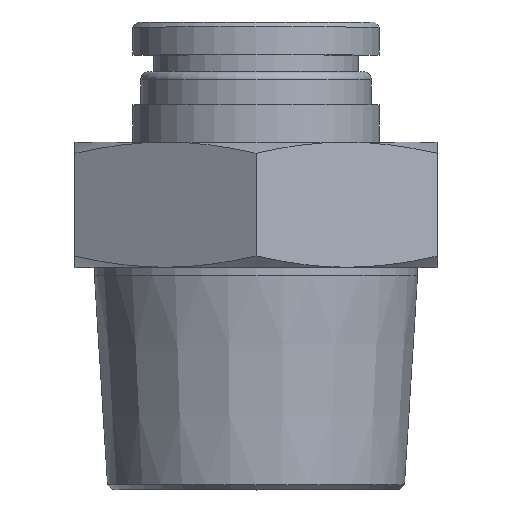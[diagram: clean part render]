
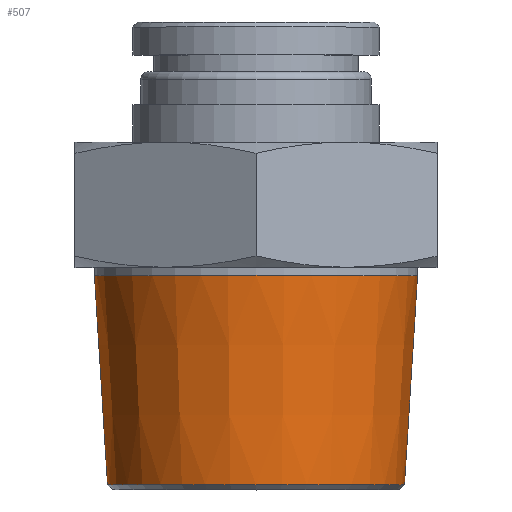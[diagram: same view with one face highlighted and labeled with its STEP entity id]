
A CAD part, top view. The second image highlights one B-rep face of the part: STEP entity #507.
In plain terms, the highlighted conical face has half-angle 3.58 degrees and reference radius 9.407 mm.
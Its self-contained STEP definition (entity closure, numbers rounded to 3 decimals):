
#40=CONICAL_SURFACE('',#580,9.407,0.062);
#85=FACE_OUTER_BOUND('',#125,.T.);
#125=EDGE_LOOP('',(#373,#374,#375,#376,#377));
#163=LINE('',#831,#179);
#179=VECTOR('',#682,9.407);
#201=CIRCLE('',#576,9.019);
#202=CIRCLE('',#577,9.019);
#204=CIRCLE('',#581,9.813);
#234=VERTEX_POINT('',#820);
#235=VERTEX_POINT('',#821);
#237=VERTEX_POINT('',#829);
#283=EDGE_CURVE('',#234,#235,#201,.T.);
#284=EDGE_CURVE('',#235,#234,#202,.T.);
#287=EDGE_CURVE('',#237,#237,#204,.T.);
#288=EDGE_CURVE('',#237,#235,#163,.T.);
#373=ORIENTED_EDGE('',*,*,#287,.F.);
#374=ORIENTED_EDGE('',*,*,#288,.T.);
#375=ORIENTED_EDGE('',*,*,#283,.F.);
#376=ORIENTED_EDGE('',*,*,#284,.F.);
#377=ORIENTED_EDGE('',*,*,#288,.F.);
#507=ADVANCED_FACE('',(#85),#40,.T.);
#576=AXIS2_PLACEMENT_3D('',#822,#669,#670);
#577=AXIS2_PLACEMENT_3D('',#823,#671,#672);
#580=AXIS2_PLACEMENT_3D('',#828,#678,#679);
#581=AXIS2_PLACEMENT_3D('',#830,#680,#681);
#669=DIRECTION('center_axis',(0.,-1.,0.));
#670=DIRECTION('ref_axis',(-1.,0.,0.));
#671=DIRECTION('center_axis',(0.,-1.,0.));
#672=DIRECTION('ref_axis',(-1.,0.,0.));
#678=DIRECTION('center_axis',(0.,1.,0.));
#679=DIRECTION('ref_axis',(1.,0.,0.));
#680=DIRECTION('center_axis',(0.,1.,0.));
#681=DIRECTION('ref_axis',(1.,0.,0.));
#682=DIRECTION('',(0.062,-0.998,0.));
#820=CARTESIAN_POINT('',(9.019,-13.201,0.));
#821=CARTESIAN_POINT('',(-9.019,-13.201,0.));
#822=CARTESIAN_POINT('Origin',(0.,-13.201,0.));
#823=CARTESIAN_POINT('Origin',(0.,-13.201,0.));
#828=CARTESIAN_POINT('Origin',(0.,-7.,0.));
#829=CARTESIAN_POINT('',(-9.813,-0.5,0.));
#830=CARTESIAN_POINT('Origin',(0.,-0.5,0.));
#831=CARTESIAN_POINT('',(-9.407,-7.,0.));
